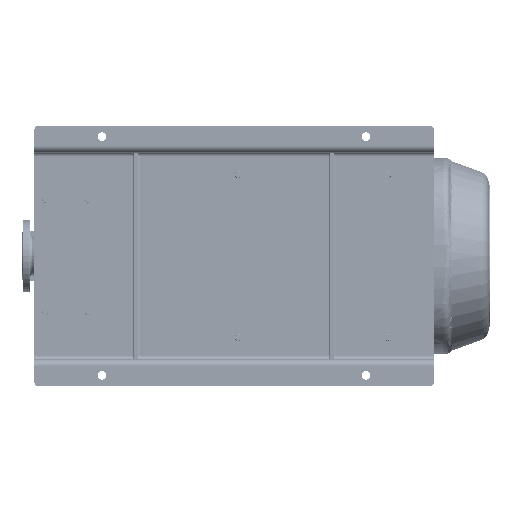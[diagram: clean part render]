
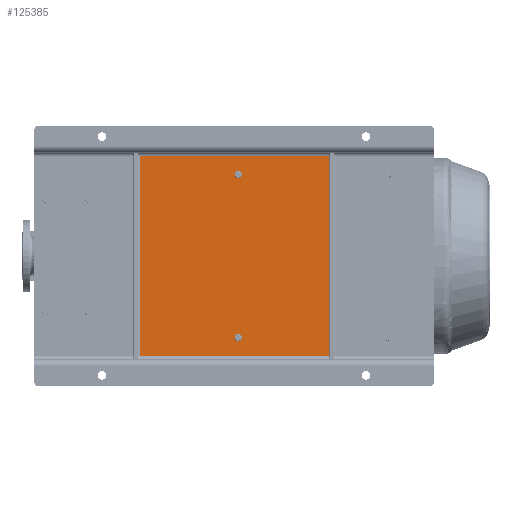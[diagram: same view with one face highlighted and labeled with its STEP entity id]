
A CAD part, front view. The second image highlights one B-rep face of the part: STEP entity #125385.
In plain terms, the highlighted planar face has unit normal (0, -1, 0).
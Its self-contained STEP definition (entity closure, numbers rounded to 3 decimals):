
#1020 = DIRECTION ( 'NONE',  ( 0., 0., 1. ) ) ;
#3319 = EDGE_LOOP ( 'NONE', ( #47677, #30865 ) ) ;
#4068 = AXIS2_PLACEMENT_3D ( 'NONE', #102871, #103705, #142534 ) ;
#7042 = EDGE_CURVE ( 'NONE', #72402, #31404, #31614, .T. ) ;
#7348 = DIRECTION ( 'NONE',  ( 0., 1., 0. ) ) ;
#10306 = AXIS2_PLACEMENT_3D ( 'NONE', #116482, #63894, #37147 ) ;
#11245 = LINE ( 'NONE', #41328, #139470 ) ;
#16349 = CARTESIAN_POINT ( 'NONE',  ( 645., 90., -295. ) ) ;
#16769 = AXIS2_PLACEMENT_3D ( 'NONE', #155122, #62850, #152582 ) ;
#18109 = CARTESIAN_POINT ( 'NONE',  ( 593.5, 90., -561.5 ) ) ;
#22435 = VECTOR ( 'NONE', #28174, 1000. ) ;
#24164 = DIRECTION ( 'NONE',  ( 1., 0., 0. ) ) ;
#28174 = DIRECTION ( 'NONE',  ( 0., 0., 1. ) ) ;
#30543 = EDGE_CURVE ( 'NONE', #31404, #72402, #87345, .T. ) ;
#30865 = ORIENTED_EDGE ( 'NONE', *, *, #131553, .T. ) ;
#31404 = VERTEX_POINT ( 'NONE', #83439 ) ;
#31614 = CIRCLE ( 'NONE', #108769, 10. ) ;
#37147 = DIRECTION ( 'NONE',  ( 0., 0., -1. ) ) ;
#38072 = DIRECTION ( 'NONE',  ( 0., 1., 0. ) ) ;
#41328 = CARTESIAN_POINT ( 'NONE',  ( 75., 90., -295. ) ) ;
#42444 = EDGE_CURVE ( 'NONE', #133311, #73979, #11245, .T. ) ;
#45746 = CARTESIAN_POINT ( 'NONE',  ( 136.5, 90., -561.5 ) ) ;
#47677 = ORIENTED_EDGE ( 'NONE', *, *, #113846, .T. ) ;
#48183 = FACE_OUTER_BOUND ( 'NONE', #82547, .T. ) ;
#51187 = ORIENTED_EDGE ( 'NONE', *, *, #7042, .T. ) ;
#52563 = DIRECTION ( 'NONE',  ( -1., 0., 0. ) ) ;
#57051 = EDGE_CURVE ( 'NONE', #82150, #140787, #144831, .T. ) ;
#58458 = EDGE_LOOP ( 'NONE', ( #51187, #64220 ) ) ;
#61408 = VECTOR ( 'NONE', #24164, 1000. ) ;
#62850 = DIRECTION ( 'NONE',  ( 0., -1., 0. ) ) ;
#63894 = DIRECTION ( 'NONE',  ( 0., 1., 0. ) ) ;
#64220 = ORIENTED_EDGE ( 'NONE', *, *, #30543, .T. ) ;
#68874 = VECTOR ( 'NONE', #162789, 1000. ) ;
#72402 = VERTEX_POINT ( 'NONE', #45746 ) ;
#73979 = VERTEX_POINT ( 'NONE', #109018 ) ;
#75777 = FACE_BOUND ( 'NONE', #3319, .T. ) ;
#75979 = CARTESIAN_POINT ( 'NONE',  ( 85., 90., -825. ) ) ;
#79286 = CARTESIAN_POINT ( 'NONE',  ( 75., 90., -825. ) ) ;
#82150 = VERTEX_POINT ( 'NONE', #75979 ) ;
#82456 = VERTEX_POINT ( 'NONE', #18109 ) ;
#82547 = EDGE_LOOP ( 'NONE', ( #110370, #153890, #137680, #143886 ) ) ;
#83439 = CARTESIAN_POINT ( 'NONE',  ( 136.5, 90., -581.5 ) ) ;
#87345 = CIRCLE ( 'NONE', #10306, 10. ) ;
#93014 = AXIS2_PLACEMENT_3D ( 'NONE', #156234, #38072, #1020 ) ;
#100418 = CIRCLE ( 'NONE', #4068, 10. ) ;
#100594 = EDGE_CURVE ( 'NONE', #140787, #133311, #122953, .T. ) ;
#102871 = CARTESIAN_POINT ( 'NONE',  ( 593.5, 90., -571.5 ) ) ;
#103705 = DIRECTION ( 'NONE',  ( 0., 1., 0. ) ) ;
#108769 = AXIS2_PLACEMENT_3D ( 'NONE', #136711, #7348, #112536 ) ;
#109018 = CARTESIAN_POINT ( 'NONE',  ( 85., 90., -295. ) ) ;
#110370 = ORIENTED_EDGE ( 'NONE', *, *, #152373, .T. ) ;
#112536 = DIRECTION ( 'NONE',  ( 0., 0., -1. ) ) ;
#113846 = EDGE_CURVE ( 'NONE', #82456, #170603, #117745, .T. ) ;
#116294 = FACE_BOUND ( 'NONE', #58458, .T. ) ;
#116482 = CARTESIAN_POINT ( 'NONE',  ( 136.5, 90., -571.5 ) ) ;
#117745 = CIRCLE ( 'NONE', #93014, 10. ) ;
#122265 = LINE ( 'NONE', #148159, #68874 ) ;
#122953 = LINE ( 'NONE', #162635, #22435 ) ;
#125385 = ADVANCED_FACE ( 'NONE', ( #75777, #116294, #48183 ), #142179, .T. ) ;
#131137 = CARTESIAN_POINT ( 'NONE',  ( 593.5, 90., -581.5 ) ) ;
#131553 = EDGE_CURVE ( 'NONE', #170603, #82456, #100418, .T. ) ;
#133311 = VERTEX_POINT ( 'NONE', #16349 ) ;
#136711 = CARTESIAN_POINT ( 'NONE',  ( 136.5, 90., -571.5 ) ) ;
#137680 = ORIENTED_EDGE ( 'NONE', *, *, #100594, .T. ) ;
#139470 = VECTOR ( 'NONE', #52563, 1000. ) ;
#140787 = VERTEX_POINT ( 'NONE', #163940 ) ;
#142179 = PLANE ( 'NONE',  #16769 ) ;
#142534 = DIRECTION ( 'NONE',  ( 0., 0., 1. ) ) ;
#143886 = ORIENTED_EDGE ( 'NONE', *, *, #42444, .T. ) ;
#144831 = LINE ( 'NONE', #79286, #61408 ) ;
#148159 = CARTESIAN_POINT ( 'NONE',  ( 85., 90., -830. ) ) ;
#152373 = EDGE_CURVE ( 'NONE', #73979, #82150, #122265, .T. ) ;
#152582 = DIRECTION ( 'NONE',  ( 0., 0., -1. ) ) ;
#153890 = ORIENTED_EDGE ( 'NONE', *, *, #57051, .T. ) ;
#155122 = CARTESIAN_POINT ( 'NONE',  ( 75., 90., -1120. ) ) ;
#156234 = CARTESIAN_POINT ( 'NONE',  ( 593.5, 90., -571.5 ) ) ;
#162635 = CARTESIAN_POINT ( 'NONE',  ( 645., 90., -290. ) ) ;
#162789 = DIRECTION ( 'NONE',  ( 0., 0., -1. ) ) ;
#163940 = CARTESIAN_POINT ( 'NONE',  ( 645., 90., -825. ) ) ;
#170603 = VERTEX_POINT ( 'NONE', #131137 ) ;
